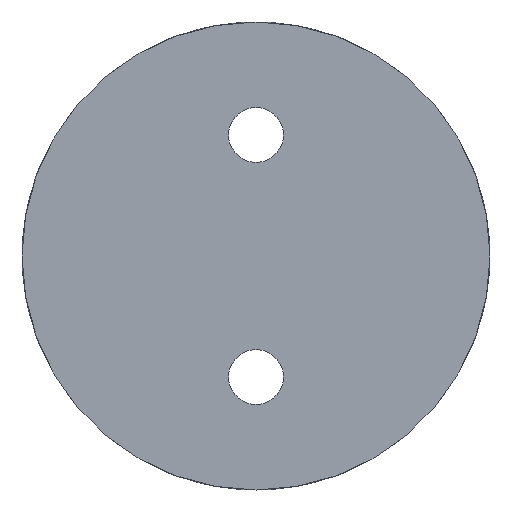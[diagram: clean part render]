
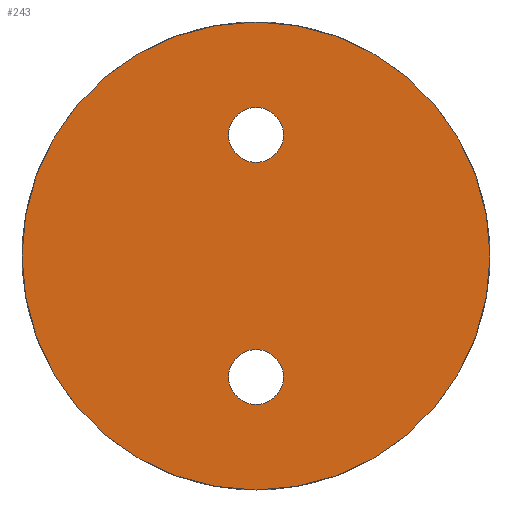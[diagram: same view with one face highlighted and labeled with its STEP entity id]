
A CAD part, front view. The second image highlights one B-rep face of the part: STEP entity #243.
In plain terms, the highlighted planar face has unit normal (0, -1, 0).
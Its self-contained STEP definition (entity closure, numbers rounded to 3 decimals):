
#19 = DIRECTION ( 'NONE',  ( 0., 0., 1. ) ) ;
#24 = DIRECTION ( 'NONE',  ( 0., 0., 1. ) ) ;
#35 = DIRECTION ( 'NONE',  ( 0., 1., 0. ) ) ;
#64 = EDGE_CURVE ( 'NONE', #106, #595, #789, .T. ) ;
#82 = ORIENTED_EDGE ( 'NONE', *, *, #403, .T. ) ;
#106 = VERTEX_POINT ( 'NONE', #905 ) ;
#112 = DIRECTION ( 'NONE',  ( 0., 0., 1. ) ) ;
#127 = VERTEX_POINT ( 'NONE', #532 ) ;
#160 = CIRCLE ( 'NONE', #892, 1.7 ) ;
#167 = DIRECTION ( 'NONE',  ( 0., 1., 0. ) ) ;
#174 = DIRECTION ( 'NONE',  ( 0., 0., 1. ) ) ;
#182 = EDGE_CURVE ( 'NONE', #127, #340, #913, .T. ) ;
#223 = FACE_BOUND ( 'NONE', #358, .T. ) ;
#234 = ORIENTED_EDGE ( 'NONE', *, *, #726, .T. ) ;
#236 = EDGE_LOOP ( 'NONE', ( #234, #82 ) ) ;
#243 = ADVANCED_FACE ( 'NONE', ( #223, #788, #513 ), #251, .F. ) ;
#251 = PLANE ( 'NONE',  #831 ) ;
#274 = DIRECTION ( 'NONE',  ( 0., 1., 0. ) ) ;
#298 = CARTESIAN_POINT ( 'NONE',  ( 0., 0., 0. ) ) ;
#299 = VERTEX_POINT ( 'NONE', #571 ) ;
#306 = CIRCLE ( 'NONE', #820, 1.7 ) ;
#322 = DIRECTION ( 'NONE',  ( 0., 1., 0. ) ) ;
#324 = DIRECTION ( 'NONE',  ( 0., 1., 0. ) ) ;
#340 = VERTEX_POINT ( 'NONE', #713 ) ;
#358 = EDGE_LOOP ( 'NONE', ( #689, #503 ) ) ;
#361 = AXIS2_PLACEMENT_3D ( 'NONE', #372, #681, #24 ) ;
#372 = CARTESIAN_POINT ( 'NONE',  ( 0., 0., 0. ) ) ;
#374 = DIRECTION ( 'NONE',  ( 0., 1., 0. ) ) ;
#376 = CIRCLE ( 'NONE', #932, 14.5 ) ;
#393 = VERTEX_POINT ( 'NONE', #868 ) ;
#403 = EDGE_CURVE ( 'NONE', #299, #393, #306, .T. ) ;
#475 = DIRECTION ( 'NONE',  ( 0., 0., 1. ) ) ;
#482 = CARTESIAN_POINT ( 'NONE',  ( 0., 0., -7.5 ) ) ;
#503 = ORIENTED_EDGE ( 'NONE', *, *, #182, .T. ) ;
#507 = CARTESIAN_POINT ( 'NONE',  ( 0., 0., 7.5 ) ) ;
#511 = DIRECTION ( 'NONE',  ( 0., 0., 1. ) ) ;
#513 = FACE_OUTER_BOUND ( 'NONE', #915, .T. ) ;
#517 = AXIS2_PLACEMENT_3D ( 'NONE', #482, #324, #846 ) ;
#518 = ORIENTED_EDGE ( 'NONE', *, *, #612, .F. ) ;
#532 = CARTESIAN_POINT ( 'NONE',  ( 0., 0., -9.2 ) ) ;
#542 = CARTESIAN_POINT ( 'NONE',  ( 0., 0., 7.5 ) ) ;
#571 = CARTESIAN_POINT ( 'NONE',  ( 0., 0., 5.8 ) ) ;
#595 = VERTEX_POINT ( 'NONE', #897 ) ;
#612 = EDGE_CURVE ( 'NONE', #595, #106, #376, .T. ) ;
#627 = CARTESIAN_POINT ( 'NONE',  ( 0., 0., 0. ) ) ;
#681 = DIRECTION ( 'NONE',  ( 0., 1., 0. ) ) ;
#689 = ORIENTED_EDGE ( 'NONE', *, *, #882, .T. ) ;
#713 = CARTESIAN_POINT ( 'NONE',  ( 0., 0., -5.8 ) ) ;
#721 = ORIENTED_EDGE ( 'NONE', *, *, #64, .F. ) ;
#726 = EDGE_CURVE ( 'NONE', #393, #299, #911, .T. ) ;
#788 = FACE_BOUND ( 'NONE', #236, .T. ) ;
#789 = CIRCLE ( 'NONE', #361, 14.5 ) ;
#820 = AXIS2_PLACEMENT_3D ( 'NONE', #507, #274, #511 ) ;
#831 = AXIS2_PLACEMENT_3D ( 'NONE', #627, #35, #112 ) ;
#845 = CARTESIAN_POINT ( 'NONE',  ( 0., 0., -7.5 ) ) ;
#846 = DIRECTION ( 'NONE',  ( 0., 0., 1. ) ) ;
#868 = CARTESIAN_POINT ( 'NONE',  ( 0., 0., 9.2 ) ) ;
#882 = EDGE_CURVE ( 'NONE', #340, #127, #160, .T. ) ;
#892 = AXIS2_PLACEMENT_3D ( 'NONE', #845, #322, #475 ) ;
#897 = CARTESIAN_POINT ( 'NONE',  ( 0., 0., 14.5 ) ) ;
#905 = CARTESIAN_POINT ( 'NONE',  ( 0., 0., -14.5 ) ) ;
#911 = CIRCLE ( 'NONE', #962, 1.7 ) ;
#913 = CIRCLE ( 'NONE', #517, 1.7 ) ;
#915 = EDGE_LOOP ( 'NONE', ( #721, #518 ) ) ;
#932 = AXIS2_PLACEMENT_3D ( 'NONE', #298, #167, #174 ) ;
#962 = AXIS2_PLACEMENT_3D ( 'NONE', #542, #374, #19 ) ;
